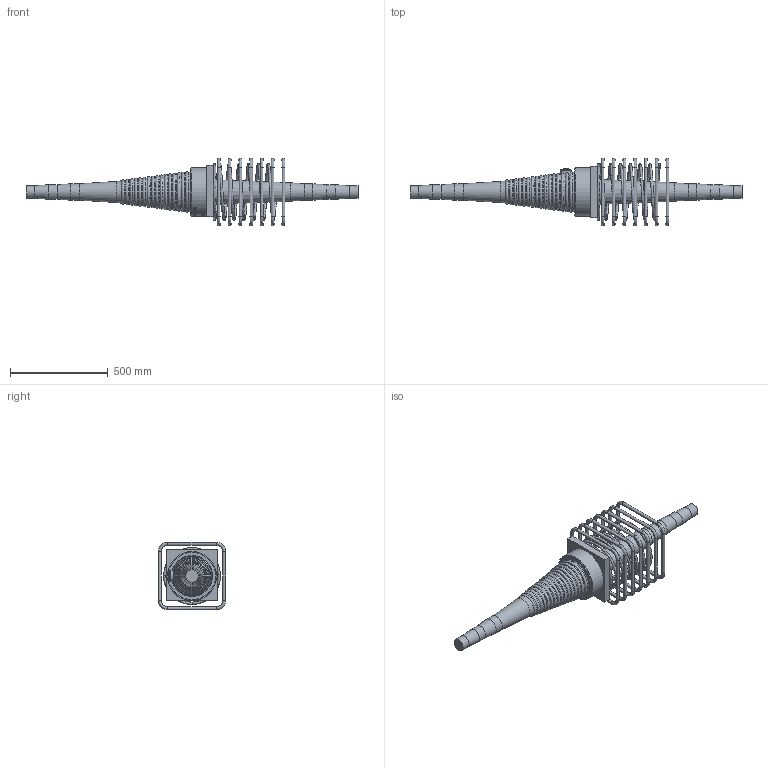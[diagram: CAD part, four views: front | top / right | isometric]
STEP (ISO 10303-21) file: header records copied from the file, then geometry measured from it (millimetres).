
FILE_DESCRIPTION(/* description */ (''),/* implementation_level */ '2;1');
FILE_NAME(/* name */ 'Z:\04 Publications\05 Give-out\BBR\6_3D_Models\BBR VT CONA CMI\BBR VT CONA CMI SP\01206\BBR VT CONA CMI SP 1206_Couler K Assembly_CS-34,28.stp',/* time_stamp */ '2017-05-10T08:52:59+02:00',/* author */ ('IP'),/* organization */ (''),/* preprocessor_version */ 'ST-DEVELOPER v16.1',/* originating_system */ 'Autodesk Inventor 2016',/* authorisation */ '');
FILE_SCHEMA (('AUTOMOTIVE_DESIGN { 1 0 10303 214 3 1 1 }'));
Length unit declared in the file: millimetre
Products named in the file (1): BBR VT CONA CMI SP 1206_Couler K Assembly_CS-34,28
Bounding box: 1696 x 345 x 345 mm (x, y, z)
Volume: 24544016.5 mm3; surface area: 1424880.8 mm2
Topology: 9 solids, 9 shells, 877 faces, 2259 edges, 1454 vertices
Faces by surface type: bspline 401, plane 260, cylinder 101, torus 87, cone 18, sphere 10
Full cylindrical faces by diameter (mm): 16 x28, 34 x1, 57 x1, 64 x2, 74 x2, 84 x2, 240 x1, 250 x1
Entity records: 38888 total; most frequent: CARTESIAN_POINT 20205, ORIENTED_EDGE 4250, DIRECTION 2716, EDGE_CURVE 2122, VERTEX_POINT 1451, EDGE_LOOP 1082, AXIS2_PLACEMENT_3D 919, LINE 878
